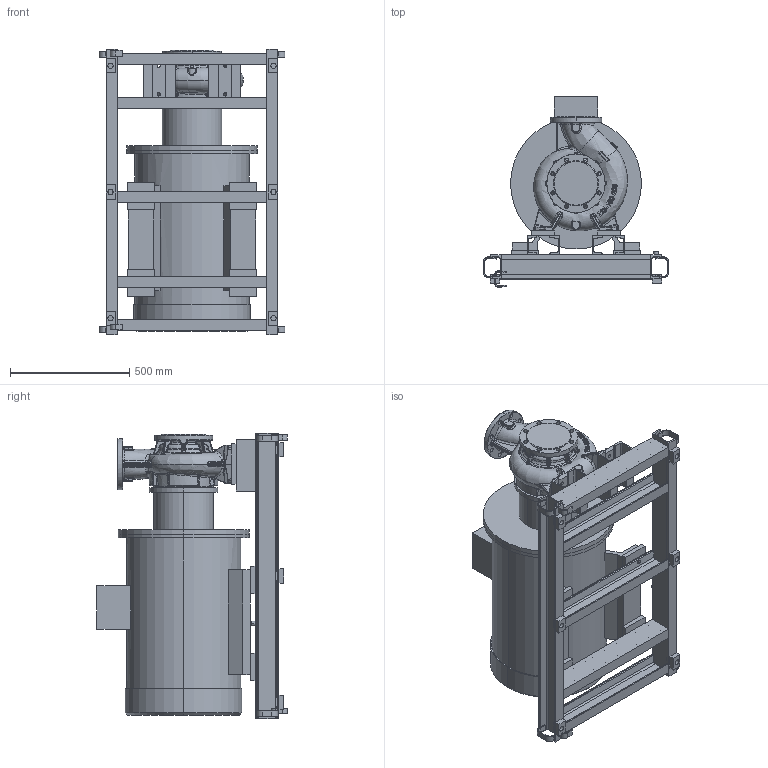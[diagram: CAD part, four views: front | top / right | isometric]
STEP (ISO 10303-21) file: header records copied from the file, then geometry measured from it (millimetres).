
FILE_DESCRIPTION (( 'STEP AP203' ), '1' );
FILE_NAME ('KRM 125-100-200-2-75.STEP', '2026-05-19T08:45:00', ( '' ), ( '' ), 'SwSTEP 2.0', 'SolidWorks 2016', '' );
FILE_SCHEMA (( 'CONFIG_CONTROL_DESIGN' ));
Products named in the file (1): KRM 125-100-200-2-75
Bounding box: 780.47 x 799.95 x 1200 mm (x, y, z)
Volume: 190305990.5 mm3; surface area: 6275593.1 mm2
Topology: 53 solids, 53 shells, 1841 faces, 4456 edges, 2709 vertices
Faces by surface type: bspline 630, plane 528, cylinder 413, torus 115, cone 106, sphere 49
Entity records: 108872 total; most frequent: CARTESIAN_POINT 70433, ORIENTED_EDGE 8850, DIRECTION 6823, EDGE_CURVE 4425, VERTEX_POINT 2707, AXIS2_PLACEMENT_3D 2641, EDGE_LOOP 1968, FACE_OUTER_BOUND 1841
